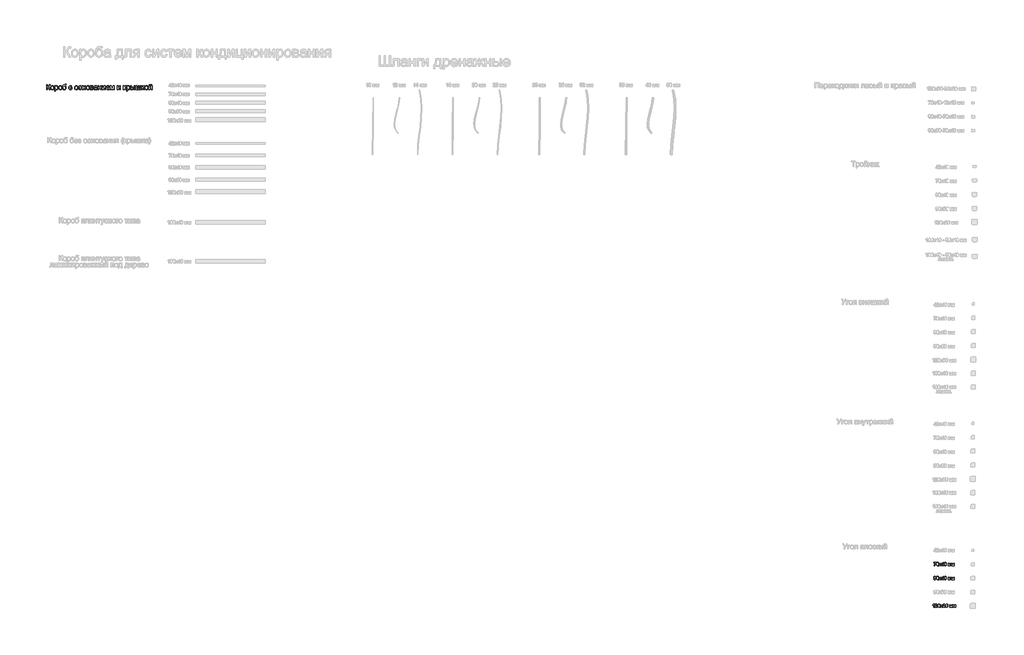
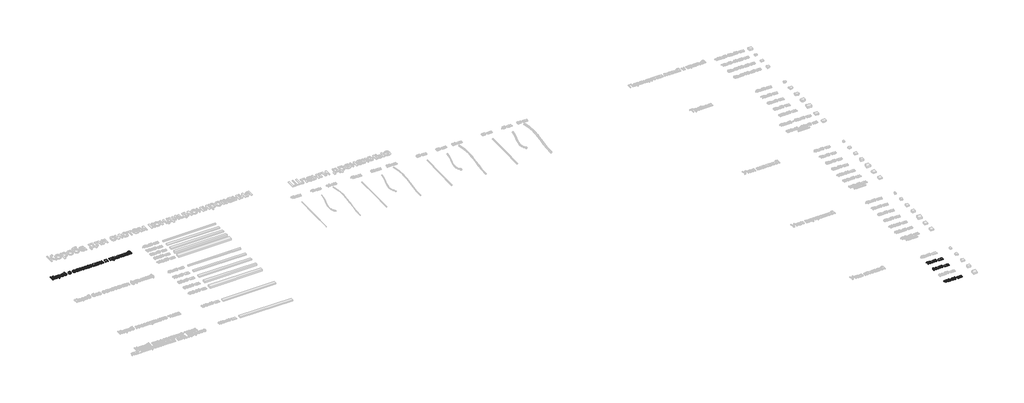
# One storey, part 6 of 21: 4 proxies.
"""IFC4 building model written with IfcOpenShell, lengths in millimetres."""

import ifcopenshell
import ifcopenshell.guid

model = None  # the IFC model being written
_history = None  # IfcOwnerHistory: only IFC2X3 demands one
_inside = {}  # id of a spatial element -> (the spatial element, [elements in it])
_under = {}  # id of a project, library or spatial element -> (it, [spatial elements below it])
_declared = {}  # id of a project -> (the project, [libraries it declares])
_typed = {}  # id of a type object -> (the type object, [elements of that type])
_made_of = {}  # id of a material, layer set ... -> (it, [elements and type objects made of it])


def new_model(schema):
    """Start an empty IFC model of exactly this schema.

    Asked for "IFC4X3", IfcOpenShell would pick the latest addendum, in which some entities
    have other attributes; the version numbers below select the first issue.
    IFC2X3 requires an IfcOwnerHistory on every rooted entity: one is made here for all.
    """
    global model, _history
    if schema == "IFC4X3":
        model = ifcopenshell.file(schema_version=(4, 3, 0, 0))
    else:
        model = ifcopenshell.file(schema=schema)
    _inside.clear()
    _under.clear()
    _declared.clear()
    _typed.clear()
    _made_of.clear()
    _history = None
    if model.schema == "IFC2X3":
        org = make("IfcOrganization", Name="unknown")
        user = make(
            "IfcPersonAndOrganization",
            ThePerson=make("IfcPerson", FamilyName="unknown"),
            TheOrganization=org,
        )
        app = make(
            "IfcApplication",
            ApplicationDeveloper=org,
            Version="unknown",
            ApplicationFullName="unknown",
            ApplicationIdentifier="unknown",
        )
        _history = make(
            "IfcOwnerHistory",
            OwningUser=user,
            OwningApplication=app,
            ChangeAction="ADDED",
            CreationDate=0,
        )
    return model


def make(cls, **values):
    """One entity of the class cls with the attributes given. An attribute that is None is left unset."""
    return model.create_entity(
        cls, **{name: value for name, value in values.items() if value is not None}
    )


def rooted(cls, **values):
    """An entity with a GlobalId (a new one), such as an element, a storey or a relation."""
    return make(cls, GlobalId=ifcopenshell.guid.new(), OwnerHistory=_history, **values)


def si_unit(unit_type, name, prefix=None):
    """IfcSIUnit, for example si_unit("LENGTHUNIT", "METRE", prefix="MILLI")."""
    return make("IfcSIUnit", UnitType=unit_type, Prefix=prefix, Name=name)


def assignment(units):
    """IfcUnitAssignment: the units of a project."""
    return None if units is None else make("IfcUnitAssignment", Units=units)


def point(xyz):
    """IfcCartesianPoint."""
    return None if xyz is None else make("IfcCartesianPoint", Coordinates=xyz)


def direction(xyz):
    """IfcDirection."""
    return None if xyz is None else make("IfcDirection", DirectionRatios=xyz)


def frame(location, z_axis=None, x_axis=None):
    """IfcAxis2Placement3D, a coordinate frame: its origin and axes. An axis left out is left unset."""
    return make(
        "IfcAxis2Placement3D",
        Location=point(location),
        Axis=direction(z_axis),
        RefDirection=direction(x_axis),
    )


def origin():
    """The frame at (0, 0, 0) with its axes left unset."""
    return frame((0.0, 0.0, 0.0))


def origin_with_axes():
    """The frame at (0, 0, 0) with the z axis (0, 0, 1) and the x axis (1, 0, 0) written out."""
    return frame((0.0, 0.0, 0.0), z_axis=(0.0, 0.0, 1.0), x_axis=(1.0, 0.0, 0.0))


def place(relative_to, where):
    """IfcLocalPlacement: puts the frame where relative to a parent placement (None: the world)."""
    return make(
        "IfcLocalPlacement", PlacementRelTo=relative_to, RelativePlacement=where
    )


def context(
    kind, dimensions, precision=None, world=None, true_north=None, identifier=None
):
    """IfcGeometricRepresentationContext, for example the 3D "Model" context."""
    return make(
        "IfcGeometricRepresentationContext",
        ContextIdentifier=identifier,
        ContextType=kind,
        CoordinateSpaceDimension=dimensions,
        Precision=precision,
        WorldCoordinateSystem=world,
        TrueNorth=true_north,
    )


def project(units=None, contexts=None):
    """IfcProject with its units and contexts."""
    return rooted(
        "IfcProject",
        Name="project",
        RepresentationContexts=contexts,
        UnitsInContext=assignment(units),
    )


def spatial(cls, under=None, at=None, **own):
    """A site, building, storey or space (cls), placed at a placement, below another one or the project."""
    s = rooted(cls, ObjectPlacement=at, **own)
    if under is not None:
        _under.setdefault(under.id(), (under, []))[1].append(s)
    return s


def polyline(points):
    """IfcPolyline through the points."""
    return make("IfcPolyline", Points=[point(p) for p in points])


def outline(outer, holes=None, kind="AREA"):
    """IfcArbitraryClosedProfileDef: a profile drawn as a closed curve; with holes, ...WithVoids."""
    if holes is None:
        return make("IfcArbitraryClosedProfileDef", ProfileType=kind, OuterCurve=outer)
    return make(
        "IfcArbitraryProfileDefWithVoids",
        ProfileType=kind,
        OuterCurve=outer,
        InnerCurves=holes,
    )


def extrude(swept, where, along, depth):
    """IfcExtrudedAreaSolid: the profile swept, set in the frame where, extruded along a direction by depth."""
    return make(
        "IfcExtrudedAreaSolid",
        SweptArea=swept,
        Position=where,
        ExtrudedDirection=direction(along),
        Depth=depth,
    )


def shape(context_of_items, identifier, shape_type, items):
    """IfcShapeRepresentation: the items that make up one representation, for example the "Body"."""
    return make(
        "IfcShapeRepresentation",
        ContextOfItems=context_of_items,
        RepresentationIdentifier=identifier,
        RepresentationType=shape_type,
        Items=items,
    )


def made_of(thing, what):
    """Note that an element or type object is made of a material, layer set ...; save() writes the relation."""
    if what is not None:
        _made_of.setdefault(what.id(), (what, []))[1].append(thing)
    return thing


def element(
    cls,
    number,
    at=None,
    inside=None,
    cuts=None,
    type_object=None,
    material=None,
    context=None,
    identifier="Body",
    shape_type=None,
    held_by="IfcProductDefinitionShape",
    body=None,
    shapes=None,
    **own,
):
    """One element of the class cls, such as IfcWall. Its Tag is "e" and its number.

    at: its placement. inside: the storey or other place that contains it. cuts: it is an
    opening in that element (IfcRelVoidsElement). A single representation is given by context,
    identifier, shape_type and body (its items); several are given by shapes. held_by: the class
    of the entity that holds the representations. save() writes the other relations.
    """
    e = rooted(cls, Tag="e%d" % number, ObjectPlacement=at, **own)
    if body is not None:
        shapes = [shape(context, identifier, shape_type, body)]
    if shapes is not None:
        e.Representation = make(held_by, Representations=shapes)
    if inside is not None:
        _inside.setdefault(inside.id(), (inside, []))[1].append(e)
    if cuts is not None:
        rooted(
            "IfcRelVoidsElement", RelatingBuildingElement=cuts, RelatedOpeningElement=e
        )
    if type_object is not None:
        _typed.setdefault(type_object.id(), (type_object, []))[1].append(e)
    return made_of(e, material)


def aggregate(whole, parts):
    """IfcRelAggregates: a whole, such as a stair, and the parts it consists of."""
    return rooted("IfcRelAggregates", RelatingObject=whole, RelatedObjects=parts)


def save(model, path):
    """Write the relations noted so far, then the file.

    IfcRelAggregates (storeys below a building ...), IfcRelContainedInSpatialStructure (elements
    in a storey), IfcRelDefinesByType, IfcRelAssociatesMaterial and IfcRelDeclares: one each for
    every whole, place, type object, material and project.
    """
    for whole, parts in _under.values():
        aggregate(whole, parts)
    for where, things in _inside.values():
        rooted(
            "IfcRelContainedInSpatialStructure",
            RelatedElements=things,
            RelatingStructure=where,
        )
    for kind, things in _typed.values():
        rooted("IfcRelDefinesByType", RelatedObjects=things, RelatingType=kind)
    for what, things in _made_of.values():
        rooted("IfcRelAssociatesMaterial", RelatedObjects=things, RelatingMaterial=what)
    for by, libraries in _declared.values():
        rooted("IfcRelDeclares", RelatingContext=by, RelatedDefinitions=libraries)
    model.write(path)


model = new_model("IFC4")

# Units and contexts
model_context = context("Model", 3, world=origin())
ifc_project = project(units=[si_unit("LENGTHUNIT", "METRE", prefix="MILLI")], contexts=[model_context])

# Site, building, storey
site = spatial("IfcSite", under=ifc_project)
building = spatial("IfcBuilding", under=site)
storey = spatial("IfcBuildingStorey", under=building, Name="Этаж 01", Elevation=0.0)

# Proxies
placement = place(None, origin())
element("IfcBuildingElementProxy", 1, Name="150 мм Arial", ObjectType="150 мм Arial", at=placement, inside=storey, context=model_context, shape_type="SweptSolid", body=[
    extrude(outline(polyline([(-2799.1885147, -2364.9797366), (-2780.3529565, -2364.9797366), (-2780.3529565, -2430.9041902), (-2767.6012469, -2429.6579899), (-2759.2917123, -2425.9193891), (-2744.5948266, -2400.7010784), (-2734.2021602, -2379.6398341), (-2722.4299364, -2369.2103796), (-2705.5993351, -2364.9797366), (-2693.2385001, -2365.2004658), (-2693.2385001, -2384.036024), (-2697.3955666, -2383.9256594), (-2701.5526332, -2383.8152948), (-2716.267913, -2388.3402433), (-2727.4515256, -2407.7276245), (-2740.7872479, -2431.3456485), (-2753.7918765, -2439.1447468), (-2739.2513406, -2447.661215), (-2724.9131398, -2465.4115213), (-2693.2385001, -2515.6642018), (-2715.0906906, -2515.6642018), (-2741.8724998, -2473.2106196), (-2760.7264521, -2451.0457294), (-2769.4314598, -2446.5345764), (-2780.3529565, -2445.0308588), (-2780.3529565, -2515.6642018), (-2799.1885147, -2515.6642018), (-2799.1885147, -2364.9797366)])), origin_with_axes(), (0.0, 0.0, 1.0), 20.0),
    extrude(outline(polyline([(-2683.820721, -2460.3347498), (-2679.7464279, -2433.6541081), (-2667.5235486, -2414.9013234), (-2652.4219927, -2405.7134705), (-2634.3405926, -2402.6508529), (-2614.5531398, -2406.3802567), (-2598.7480096, -2417.5684678), (-2588.3875329, -2435.3325697), (-2584.9340407, -2458.7896454), (-2586.460751, -2477.8183416), (-2591.0408818, -2492.3036951), (-2598.541076, -2503.1516155), (-2608.8279763, -2511.268012), (-2621.046257, -2516.330988), (-2634.3405926, -2518.0186466), (-2654.3671687, -2514.3030385), (-2670.1539049, -2503.156214), (-2680.404017, -2485.0196316), (-2683.820721, -2460.3347498)]), holes=[polyline([(-2664.9851628, -2460.2979616), (-2662.805462, -2477.3446935), (-2656.2663595, -2489.4893979), (-2646.4255162, -2496.7596658), (-2634.3405926, -2499.1830885), (-2622.3108514, -2496.7458702), (-2612.4884021, -2489.4342156), (-2605.9492997, -2477.1285628), (-2603.7695988, -2459.7093504), (-2605.9630952, -2443.1592591), (-2612.5435844, -2431.1801017), (-2622.3798293, -2423.9098337), (-2634.3405926, -2421.4864111), (-2646.4255162, -2423.9006367), (-2656.2663595, -2431.1433135), (-2662.805462, -2443.2604267), (-2664.9851628, -2460.2979616)])]), origin_with_axes(), (0.0, 0.0, 1.0), 20.0),
    extrude(outline(polyline([(-2563.7440378, -2558.0442077), (-2563.7440378, -2405.0052977), (-2544.9084796, -2405.0052977), (-2544.9084796, -2423.4729739), (-2531.885457, -2407.8563832), (-2514.3006976, -2402.6508529), (-2501.5627835, -2404.4718688), (-2490.4251561, -2409.9349164), (-2481.3568649, -2418.708902), (-2474.8269595, -2430.4627318), (-2469.566247, -2459.4886212), (-2471.0515706, -2475.597254), (-2475.5075412, -2490.0044327), (-2482.7916047, -2501.9789916), (-2492.7612068, -2510.7897654), (-2504.3724823, -2516.2114263), (-2516.581566, -2518.0186466), (-2532.9707089, -2513.1809984), (-2544.9084796, -2500.948922), (-2544.9084796, -2558.0442077), (-2563.7440378, -2558.0442077)]), holes=[polyline([(-2544.9084796, -2461.2176666), (-2542.8713331, -2478.1034501), (-2536.7598934, -2489.9124622), (-2527.742186, -2496.8654319), (-2516.9862362, -2499.1830885), (-2506.0555424, -2496.7826584), (-2496.8079087, -2489.5813684), (-2490.503331, -2477.340095), (-2488.4018051, -2459.819715), (-2490.4527473, -2443.0259019), (-2496.6055736, -2431.051343), (-2505.6094855, -2423.877644), (-2516.213684, -2421.4864111), (-2526.8592692, -2424.0293954), (-2536.2080704, -2431.6583482), (-2542.7333773, -2444.1341464), (-2544.9084796, -2461.2176666)])]), origin_with_axes(), (0.0, 0.0, 1.0), 20.0),
    extrude(outline(polyline([(-2453.0851336, -2460.3347498), (-2449.0108405, -2433.6541081), (-2436.7879612, -2414.9013234), (-2421.6864053, -2405.7134705), (-2403.6050053, -2402.6508529), (-2383.8175524, -2406.3802567), (-2368.0124222, -2417.5684678), (-2357.6519455, -2435.3325697), (-2354.1984533, -2458.7896454), (-2355.7251636, -2477.8183416), (-2360.3052944, -2492.3036951), (-2367.8054886, -2503.1516155), (-2378.0923889, -2511.268012), (-2390.3106697, -2516.330988), (-2403.6050053, -2518.0186466), (-2423.6315814, -2514.3030385), (-2439.4183175, -2503.156214), (-2449.6684296, -2485.0196316), (-2453.0851336, -2460.3347498)]), holes=[polyline([(-2434.2495755, -2460.2979616), (-2432.0698746, -2477.3446935), (-2425.5307722, -2489.4893979), (-2415.6899288, -2496.7596658), (-2403.6050053, -2499.1830885), (-2391.575264, -2496.7458702), (-2381.7528147, -2489.4342156), (-2375.2137123, -2477.1285628), (-2373.0340115, -2459.7093504), (-2375.2275079, -2443.1592591), (-2381.807997, -2431.1801017), (-2391.6442419, -2423.9098337), (-2403.6050053, -2421.4864111), (-2415.6899288, -2423.9006367), (-2425.5307722, -2431.1433135), (-2432.0698746, -2443.2604267), (-2434.2495755, -2460.2979616)])]), origin_with_axes(), (0.0, 0.0, 1.0), 20.0),
    extrude(outline(polyline([(-2255.311773, -2362.6252918), (-2238.8306596, -2362.6252918), (-2243.686702, -2377.3221776), (-2253.288422, -2382.6380724), (-2276.3546231, -2383.8152948), (-2307.4222576, -2388.1563023), (-2314.5499713, -2393.8032909), (-2319.3416343, -2402.0622417), (-2323.3699421, -2426.6735472), (-2307.0543756, -2408.6473294), (-2297.1353573, -2404.1499721), (-2286.0299196, -2402.6508529), (-2266.4310063, -2406.4630301), (-2250.5293071, -2417.8995616), (-2239.9894879, -2435.8384074), (-2236.4762149, -2459.1575274), (-2238.2190558, -2477.1377599), (-2243.4475787, -2491.5679312), (-2259.9838743, -2511.1208592), (-2271.2778516, -2516.2941998), (-2286.0299196, -2518.0186466), (-2303.0306663, -2515.7975591), (-2315.7731789, -2509.1342964), (-2325.1495713, -2499.0083445), (-2332.0519572, -2486.3991891), (-2336.3009942, -2467.4118797), (-2337.7173399, -2438.1514655), (-2334.144286, -2402.011658), (-2323.4251244, -2379.9709279), (-2305.2931406, -2368.7275344), (-2279.4816201, -2364.9797366), (-2258.5123464, -2364.5566723), (-2255.311773, -2362.6252918)]), holes=[polyline([(-2255.311773, -2458.5689162), (-2257.3535181, -2443.7478703), (-2263.4787533, -2431.8790774), (-2273.3195967, -2424.0845777), (-2286.5081662, -2421.4864111), (-2300.2577558, -2424.2317305), (-2310.4572841, -2432.4676886), (-2316.7756573, -2445.2929747), (-2318.8817818, -2461.8062777), (-2316.5549282, -2477.8137431), (-2309.5743673, -2489.5629743), (-2299.1817009, -2496.7780599), (-2286.6185308, -2499.1830885), (-2273.9909813, -2496.4009809), (-2263.9937881, -2488.0546581), (-2257.4822768, -2475.1190074), (-2255.311773, -2458.5689162)])]), origin_with_axes(), (0.0, 0.0, 1.0), 20.0),
    extrude(outline(polyline([(-2083.4373049, -2475.6386408), (-2064.6017467, -2477.9930855), (-2069.8532622, -2494.7455119), (-2079.7216967, -2507.4052511), (-2093.2781482, -2515.3652977), (-2109.5937147, -2518.0186466), (-2129.6294879, -2514.316834), (-2145.2966623, -2503.2113963), (-2155.4088187, -2485.1897771), (-2158.7795375, -2460.73942), (-2157.3401992, -2443.9777966), (-2153.0221842, -2429.4510563), (-2145.7565148, -2417.7202192), (-2135.4742131, -2409.3463052), (-2123.1731589, -2404.324716), (-2109.8512321, -2402.6508529), (-2093.9357373, -2404.9501154), (-2081.2116188, -2411.8479028), (-2072.0835468, -2422.9763332), (-2066.9561915, -2437.9675245), (-2085.7917496, -2440.3219692), (-2094.528947, -2426.2136947), (-2109.7040793, -2421.4864111), (-2121.8763748, -2423.8132647), (-2131.5378757, -2430.7938256), (-2137.8424534, -2442.8051727), (-2139.9439793, -2460.2243852), (-2137.8884387, -2477.8781224), (-2131.7218167, -2489.9308563), (-2122.2350598, -2496.8700304), (-2110.2191141, -2499.1830885), (-2100.4656427, -2497.7391516), (-2092.4688078, -2493.4073411), (-2086.6516738, -2486.0772924), (-2083.4373049, -2475.6386408)])), origin_with_axes(), (0.0, 0.0, 1.0), 20.0),
    extrude(outline(polyline([(-1993.9684036, -2460.3347498), (-1989.8941105, -2433.6541081), (-1977.6712312, -2414.9013234), (-1962.5696753, -2405.7134705), (-1944.4882753, -2402.6508529), (-1924.7008225, -2406.3802567), (-1908.8956922, -2417.5684678), (-1898.5352156, -2435.3325697), (-1895.0817233, -2458.7896454), (-1896.6084336, -2477.8183416), (-1901.1885644, -2492.3036951), (-1908.6887586, -2503.1516155), (-1918.9756589, -2511.268012), (-1931.1939397, -2516.330988), (-1944.4882753, -2518.0186466), (-1964.5148514, -2514.3030385), (-1980.3015875, -2503.156214), (-1990.5516996, -2485.0196316), (-1993.9684036, -2460.3347498)]), holes=[polyline([(-1975.1328455, -2460.2979616), (-1972.9531447, -2477.3446935), (-1966.4140422, -2489.4893979), (-1956.5731988, -2496.7596658), (-1944.4882753, -2499.1830885), (-1932.458534, -2496.7458702), (-1922.6360848, -2489.4342156), (-1916.0969823, -2477.1285628), (-1913.9172815, -2459.7093504), (-1916.1107779, -2443.1592591), (-1922.6912671, -2431.1801017), (-1932.5275119, -2423.9098337), (-1944.4882753, -2421.4864111), (-1956.5731988, -2423.9006367), (-1966.4140422, -2431.1433135), (-1972.9531447, -2443.2604267), (-1975.1328455, -2460.2979616)])]), origin_with_axes(), (0.0, 0.0, 1.0), 20.0),
    extrude(outline(polyline([(-1803.2583773, -2475.6386408), (-1784.4228192, -2477.9930855), (-1789.6743347, -2494.7455119), (-1799.5427692, -2507.4052511), (-1813.0992207, -2515.3652977), (-1829.4147872, -2518.0186466), (-1849.4505604, -2514.316834), (-1865.1177348, -2503.2113963), (-1875.2298912, -2485.1897771), (-1878.6006099, -2460.73942), (-1877.1612716, -2443.9777966), (-1872.8432567, -2429.4510563), (-1865.5775873, -2417.7202192), (-1855.2952856, -2409.3463052), (-1842.9942313, -2404.324716), (-1829.6723046, -2402.6508529), (-1813.7568098, -2404.9501154), (-1801.0326913, -2411.8479028), (-1791.9046193, -2422.9763332), (-1786.7772639, -2437.9675245), (-1805.6128221, -2440.3219692), (-1814.3500195, -2426.2136947), (-1829.5251518, -2421.4864111), (-1841.6974473, -2423.8132647), (-1851.3589482, -2430.7938256), (-1857.6635259, -2442.8051727), (-1859.7650518, -2460.2243852), (-1857.7095111, -2477.8781224), (-1851.5428892, -2489.9308563), (-1842.0561322, -2496.8700304), (-1830.0401866, -2499.1830885), (-1820.2867152, -2497.7391516), (-1812.2898803, -2493.4073411), (-1806.4727463, -2486.0772924), (-1803.2583773, -2475.6386408)])), origin_with_axes(), (0.0, 0.0, 1.0), 20.0),
    extrude(outline(polyline([(-1767.9417058, -2405.0052977), (-1749.1061476, -2405.0052977), (-1749.1061476, -2447.3853035), (-1699.6628075, -2447.3853035), (-1699.6628075, -2405.0052977), (-1680.8272493, -2405.0052977), (-1680.8272493, -2515.6642018), (-1699.6628075, -2515.6642018), (-1699.6628075, -2466.2208617), (-1749.1061476, -2466.2208617), (-1749.1061476, -2515.6642018), (-1767.9417058, -2515.6642018), (-1767.9417058, -2405.0052977)])), origin_with_axes(), (0.0, 0.0, 1.0), 20.0),
    extrude(outline(polyline([(-1657.2828016, -2460.3347498), (-1653.2085085, -2433.6541081), (-1640.9856293, -2414.9013234), (-1625.8840734, -2405.7134705), (-1607.8026733, -2402.6508529), (-1588.0152205, -2406.3802567), (-1572.2100903, -2417.5684678), (-1561.8496136, -2435.3325697), (-1558.3961213, -2458.7896454), (-1559.9228316, -2477.8183416), (-1564.5029625, -2492.3036951), (-1572.0031566, -2503.1516155), (-1582.2900569, -2511.268012), (-1594.5083377, -2516.330988), (-1607.8026733, -2518.0186466), (-1627.8292494, -2514.3030385), (-1643.6159855, -2503.156214), (-1653.8660976, -2485.0196316), (-1657.2828016, -2460.3347498)]), holes=[polyline([(-1638.4472435, -2460.2979616), (-1636.2675427, -2477.3446935), (-1629.7284402, -2489.4893979), (-1619.8875968, -2496.7596658), (-1607.8026733, -2499.1830885), (-1595.7729321, -2496.7458702), (-1585.9504828, -2489.4342156), (-1579.4113803, -2477.1285628), (-1577.2316795, -2459.7093504), (-1579.4251759, -2443.1592591), (-1586.0056651, -2431.1801017), (-1595.8419099, -2423.9098337), (-1607.8026733, -2421.4864111), (-1619.8875968, -2423.9006367), (-1629.7284402, -2431.1433135), (-1636.2675427, -2443.2604267), (-1638.4472435, -2460.2979616)])]), origin_with_axes(), (0.0, 0.0, 1.0), 20.0),
    extrude(outline(polyline([(-1537.2061184, -2405.0052977), (-1495.7090294, -2405.0052977), (-1472.955528, -2407.5252894), (-1460.1532345, -2416.7591274), (-1454.8005515, -2432.8539647), (-1458.0379131, -2445.9321697), (-1467.7867859, -2455.2579782), (-1455.1316453, -2465.4667036), (-1450.091662, -2483.2170099), (-1453.2830383, -2497.5736047), (-1460.8706044, -2507.6811625), (-1472.8819516, -2513.668442), (-1489.3446708, -2515.6642018), (-1537.2061184, -2515.6642018), (-1537.2061184, -2405.0052977)]), holes=[polyline([(-1518.3705603, -2496.8286437), (-1495.267571, -2496.8286437), (-1474.7765438, -2493.4257352), (-1470.5367038, -2488.7858236), (-1468.9272201, -2481.6719055), (-1472.1461876, -2472.6036143), (-1480.5338971, -2467.3245077), (-1497.1069809, -2466.2208617), (-1518.3705603, -2466.2208617), (-1518.3705603, -2496.8286437)]), polyline([(-1518.3705603, -2447.3853035), (-1499.7557313, -2447.3853035), (-1484.396658, -2446.4288104), (-1476.9286535, -2442.6028376), (-1473.6361097, -2435.6866561), (-1475.0800465, -2430.0672586), (-1479.411857, -2426.452818), (-1499.1671201, -2423.8408558), (-1518.3705603, -2423.8408558), (-1518.3705603, -2447.3853035)])]), origin_with_axes(), (0.0, 0.0, 1.0), 20.0),
    extrude(outline(polyline([(-1355.9138712, -2501.5375332), (-1374.1792123, -2514.3030385), (-1394.3575397, -2518.0186466), (-1410.0982906, -2515.7837635), (-1421.709566, -2509.0791141), (-1428.8694694, -2498.8979799), (-1431.2561038, -2486.2336422), (-1427.6508603, -2471.3344214), (-1418.1778989, -2460.5186908), (-1404.9893294, -2454.3382732), (-1388.692157, -2451.5055819), (-1356.0242358, -2445.0308588), (-1355.9138712, -2440.837004), (-1357.2106552, -2432.4309004), (-1361.1010073, -2426.9310646), (-1369.8014165, -2422.8475745), (-1381.9231283, -2421.4864111), (-1400.9794156, -2425.1100487), (-1410.0661009, -2437.9675245), (-1428.901659, -2435.6130797), (-1420.7530728, -2417.2189799), (-1404.3455359, -2406.4400375), (-1379.4951071, -2402.6508529), (-1356.6680293, -2405.9985791), (-1343.7737654, -2414.4046827), (-1337.998018, -2427.188582), (-1337.078313, -2443.6696954), (-1337.078313, -2467.1037785), (-1336.1218199, -2499.826882), (-1332.3694235, -2515.6642018), (-1351.2049817, -2515.6642018), (-1355.9138712, -2501.5375332)]), holes=[polyline([(-1355.9138712, -2463.8664169), (-1386.300924, -2469.6421642), (-1402.5061259, -2472.6955848), (-1409.8453717, -2477.6619917), (-1412.4205457, -2484.909267), (-1406.8103452, -2495.0995983), (-1390.3476259, -2499.1830885), (-1371.2913386, -2494.676534), (-1359.00408, -2483.7688329), (-1356.0242358, -2469.2007059), (-1355.9138712, -2463.8664169)])]), origin_with_axes(), (0.0, 0.0, 1.0), 20.0),
    extrude(outline(polyline([(-1311.1794206, -2405.0052977), (-1292.3438624, -2405.0052977), (-1292.3438624, -2447.3853035), (-1242.9005223, -2447.3853035), (-1242.9005223, -2405.0052977), (-1224.0649641, -2405.0052977), (-1224.0649641, -2515.6642018), (-1242.9005223, -2515.6642018), (-1242.9005223, -2466.2208617), (-1292.3438624, -2466.2208617), (-1292.3438624, -2515.6642018), (-1311.1794206, -2515.6642018), (-1311.1794206, -2405.0052977)])), origin_with_axes(), (0.0, 0.0, 1.0), 20.0),
    extrude(outline(polyline([(-1195.8116269, -2405.0052977), (-1176.9760687, -2405.0052977), (-1176.9760687, -2489.3974274), (-1130.6965138, -2405.0052977), (-1106.3427257, -2405.0052977), (-1106.3427257, -2515.6642018), (-1125.1782838, -2515.6642018), (-1125.1782838, -2431.7871069), (-1171.1635332, -2515.6642018), (-1195.8116269, -2515.6642018), (-1195.8116269, -2405.0052977)])), origin_with_axes(), (0.0, 0.0, 1.0), 20.0),
    extrude(outline(polyline([(-1000.6134403, -2482.7019751), (-982.1457641, -2485.0564198), (-988.7998297, -2498.9715563), (-999.4178238, -2509.3734197), (-1013.7606231, -2515.8573399), (-1031.5891042, -2518.0186466), (-1053.6896151, -2514.2892429), (-1070.6949603, -2503.1010317), (-1081.5382821, -2485.18058), (-1085.1527227, -2461.2544548), (-1081.5014939, -2436.5235876), (-1070.5478075, -2418.0283203), (-1053.7723886, -2406.4952198), (-1032.655962, -2402.6508529), (-1012.1971246, -2406.4860227), (-995.8493684, -2417.9915321), (-985.1302068, -2436.4500112), (-981.5571529, -2461.1440902), (-981.6675175, -2466.2208617), (-1066.3171646, -2466.2208617), (-1063.0568104, -2480.3199392), (-1055.4830398, -2490.6850144), (-1044.5523461, -2497.0585699), (-1031.2212223, -2499.1830885), (-1012.7535461, -2495.2467511), (-1000.6134403, -2482.7019751)]), holes=[polyline([(-1066.3171646, -2447.3853035), (-1000.3927111, -2447.3853035), (-1002.9402939, -2437.4340956), (-1007.934292, -2430.315579), (-1018.9155695, -2423.693703), (-1032.7295384, -2421.4864111), (-1045.4260658, -2423.2476461), (-1055.9244982, -2428.5313513), (-1063.2223573, -2436.7673095), (-1066.3171646, -2447.3853035)])]), origin_with_axes(), (0.0, 0.0, 1.0), 20.0),
    extrude(outline(polyline([(-962.7215948, -2405.0052977), (-930.311191, -2405.0052977), (-905.3320035, -2493.5912821), (-878.4030415, -2405.0052977), (-847.3538011, -2405.0052977), (-847.3538011, -2515.6642018), (-866.1893592, -2515.6642018), (-866.1893592, -2426.5631826), (-893.2654741, -2515.6642018), (-917.9871441, -2515.6642018), (-943.8860366, -2422.2957515), (-943.8860366, -2515.6642018), (-962.7215948, -2515.6642018), (-962.7215948, -2405.0052977)])), origin_with_axes(), (0.0, 0.0, 1.0), 20.0),
    extrude(outline(polyline([(-760.2393446, -2405.0052977), (-741.4037865, -2405.0052977), (-741.4037865, -2489.3974274), (-695.1242315, -2405.0052977), (-670.7704434, -2405.0052977), (-670.7704434, -2515.6642018), (-689.6060015, -2515.6642018), (-689.6060015, -2431.7871069), (-735.5912509, -2515.6642018), (-760.2393446, -2515.6642018), (-760.2393446, -2405.0052977)])), origin_with_axes(), (0.0, 0.0, 1.0), 20.0),
    extrude(outline(polyline([(-583.6559869, -2405.0052977), (-564.8204288, -2405.0052977), (-564.8204288, -2452.0941931), (-552.2020763, -2448.7096787), (-541.8645923, -2428.9912038), (-533.2745477, -2411.9766615), (-525.6961786, -2406.4400375), (-511.9189979, -2405.0052977), (-508.3137543, -2405.0052977), (-508.3137543, -2423.9512204), (-513.3905258, -2423.8408558), (-522.5875757, -2425.8274186), (-529.0622988, -2438.2250419), (-536.659062, -2451.6343406), (-547.3092458, -2458.2010342), (-535.4266574, -2465.531083), (-523.7647981, -2480.9729297), (-503.6048648, -2515.6642018), (-525.0155969, -2515.6642018), (-544.77086, -2481.7086937), (-554.7036739, -2467.3429018), (-564.8204288, -2463.8664169), (-564.8204288, -2515.6642018), (-583.6559869, -2515.6642018), (-583.6559869, -2405.0052977)])), origin_with_axes(), (0.0, 0.0, 1.0), 20.0),
    extrude(outline(polyline([(-491.8326409, -2558.0442077), (-491.8326409, -2405.0052977), (-472.9970828, -2405.0052977), (-472.9970828, -2423.4729739), (-459.9740601, -2407.8563832), (-442.3893008, -2402.6508529), (-429.6513867, -2404.4718688), (-418.5137593, -2409.9349164), (-409.4454681, -2418.708902), (-402.9155627, -2430.4627318), (-397.6548502, -2459.4886212), (-399.1401737, -2475.597254), (-403.5961444, -2490.0044327), (-410.8802079, -2501.9789916), (-420.84981, -2510.7897654), (-432.4610854, -2516.2114263), (-444.6701691, -2518.0186466), (-461.059312, -2513.1809984), (-472.9970828, -2500.948922), (-472.9970828, -2558.0442077), (-491.8326409, -2558.0442077)]), holes=[polyline([(-472.9970828, -2461.2176666), (-470.9599362, -2478.1034501), (-464.8484966, -2489.9124622), (-455.8307892, -2496.8654319), (-445.0748393, -2499.1830885), (-434.1441456, -2496.7826584), (-424.8965119, -2489.5813684), (-418.5919342, -2477.340095), (-416.4904083, -2459.819715), (-418.5413504, -2443.0259019), (-424.6941768, -2431.051343), (-433.6980886, -2423.877644), (-444.3022871, -2421.4864111), (-454.9478724, -2424.0293954), (-464.2966736, -2431.6583482), (-470.8219805, -2444.1341464), (-472.9970828, -2461.2176666)])]), origin_with_axes(), (0.0, 0.0, 1.0), 20.0),
    extrude(outline(polyline([(-272.8692774, -2405.0052977), (-254.0337192, -2405.0052977), (-254.0337192, -2515.6642018), (-272.8692774, -2515.6642018), (-272.8692774, -2405.0052977)])), origin_with_axes(), (0.0, 0.0, 1.0), 20.0),
    extrude(outline(polyline([(-376.4648472, -2405.0052977), (-357.6292891, -2405.0052977), (-357.6292891, -2445.0308588), (-334.3423588, -2445.0308588), (-314.2146151, -2447.3899021), (-299.3015988, -2454.4670319), (-290.0723592, -2465.6920313), (-286.995946, -2480.4946831), (-289.5757185, -2493.9729597), (-297.315036, -2505.3451119), (-310.7197362, -2513.0844294), (-330.2956568, -2515.6642018), (-376.4648472, -2515.6642018), (-376.4648472, -2405.0052977)]), holes=[polyline([(-357.6292891, -2496.8286437), (-338.2786961, -2496.8286437), (-313.2995087, -2492.8739122), (-307.6985053, -2487.8109363), (-305.8315042, -2480.5314713), (-311.3681282, -2468.9431885), (-320.2478799, -2465.1356098), (-335.8138868, -2463.8664169), (-357.6292891, -2463.8664169), (-357.6292891, -2496.8286437)])]), origin_with_axes(), (0.0, 0.0, 1.0), 20.0),
    extrude(outline(polyline([(-225.780382, -2405.0052977), (-206.9448239, -2405.0052977), (-206.9448239, -2496.8286437), (-164.564818, -2496.8286437), (-164.564818, -2405.0052977), (-145.7292599, -2405.0052977), (-145.7292599, -2496.8286437), (-103.349254, -2496.8286437), (-103.349254, -2405.0052977), (-84.5136959, -2405.0052977), (-84.5136959, -2515.6642018), (-225.780382, -2515.6642018), (-225.780382, -2405.0052977)])), origin_with_axes(), (0.0, 0.0, 1.0), 20.0),
    extrude(outline(polyline([(-58.6148034, -2405.0052977), (-39.7792453, -2405.0052977), (-39.7792453, -2452.0941931), (-27.1608928, -2448.7096787), (-16.8234088, -2428.9912038), (-8.2333642, -2411.9766615), (-0.6549951, -2406.4400375), (13.1221857, -2405.0052977), (16.7274292, -2405.0052977), (16.7274292, -2423.9512204), (11.6506577, -2423.8408558), (2.4536078, -2425.8274186), (-4.0211153, -2438.2250419), (-11.6178785, -2451.6343406), (-22.2680623, -2458.2010342), (-10.3854738, -2465.531083), (1.2763854, -2480.9729297), (21.4363187, -2515.6642018), (0.0255866, -2515.6642018), (-19.7296765, -2481.7086937), (-29.6624904, -2467.3429018), (-39.7792453, -2463.8664169), (-39.7792453, -2515.6642018), (-58.6148034, -2515.6642018), (-58.6148034, -2405.0052977)])), origin_with_axes(), (0.0, 0.0, 1.0), 20.0),
    extrude(outline(polyline([(28.4996531, -2460.3347498), (32.5739461, -2433.6541081), (44.7968254, -2414.9013234), (59.8983813, -2405.7134705), (77.9797814, -2402.6508529), (97.7672342, -2406.3802567), (113.5723644, -2417.5684678), (123.9328411, -2435.3325697), (127.3863334, -2458.7896454), (125.8596231, -2477.8183416), (121.2794922, -2492.3036951), (113.7792981, -2503.1516155), (103.4923978, -2511.268012), (91.274117, -2516.330988), (77.9797814, -2518.0186466), (57.9532053, -2514.3030385), (42.1664692, -2503.156214), (31.9163571, -2485.0196316), (28.4996531, -2460.3347498)]), holes=[polyline([(47.3352112, -2460.2979616), (49.514912, -2477.3446935), (56.0540145, -2489.4893979), (65.8948579, -2496.7596658), (77.9797814, -2499.1830885), (90.0095226, -2496.7458702), (99.8319719, -2489.4342156), (106.3710744, -2477.1285628), (108.5507752, -2459.7093504), (106.3572788, -2443.1592591), (99.7767896, -2431.1801017), (89.9405448, -2423.9098337), (77.9797814, -2421.4864111), (65.8948579, -2423.9006367), (56.0540145, -2431.1433135), (49.514912, -2443.2604267), (47.3352112, -2460.2979616)])]), origin_with_axes(), (0.0, 0.0, 1.0), 20.0),
    extrude(outline(polyline([(148.5763363, -2405.0052977), (167.4118944, -2405.0052977), (167.4118944, -2489.3974274), (213.6914494, -2405.0052977), (238.0452375, -2405.0052977), (238.0452375, -2515.6642018), (219.2096794, -2515.6642018), (219.2096794, -2431.7871069), (173.22443, -2515.6642018), (148.5763363, -2515.6642018), (148.5763363, -2405.0052977)])), origin_with_axes(), (0.0, 0.0, 1.0), 20.0),
    extrude(outline(polyline([(209.7919003, -2364.9797366), (223.9185689, -2364.9797366), (220.8789439, -2377.0416675), (214.7767013, -2385.9306162), (205.8877526, -2391.4074594), (194.4880093, -2393.2330738), (182.1179772, -2391.421255), (172.5254542, -2385.9857985), (165.9679576, -2377.1106454), (162.7030049, -2364.9797366), (176.8296735, -2364.9797366), (182.1271742, -2375.5931322), (192.7957521, -2379.1064052), (204.4943995, -2375.7034968), (209.7919003, -2364.9797366)])), origin_with_axes(), (0.0, 0.0, 1.0), 20.0),
])
element("IfcBuildingElementProxy", 2, Name="100 мм Arial", ObjectType="100 мм Arial", at=placement, inside=storey, context=model_context, shape_type="SweptSolid", body=[
    extrude(outline(polyline([(22749.8598158, -16152.1324753), (22749.8598158, -16139.5754366), (22815.7842693, -16139.5754366), (22815.7842693, -16149.7289796), (22797.0836012, -16176.7437808), (22782.7729916, -16211.1652728), (22778.113153, -16238.4621169), (22765.5561142, -16238.4621169), (22770.5470466, -16210.1352032), (22784.2445196, -16178.1172069), (22803.2272305, -16152.1324753), (22749.8598158, -16152.1324753)])), origin_with_axes(), (0.0, 0.0, 1.0), 20.0),
    extrude(outline(polyline([(22826.7716782, -16189.0433022), (22830.4627609, -16160.1400401), (22841.4256444, -16143.4749857), (22859.733905, -16138.0058067), (22874.4001339, -16141.2431683), (22884.5291515, -16150.5751082), (22890.4152634, -16165.4375408), (22892.6961318, -16189.0433022), (22889.0418373, -16217.8239369), (22878.115742, -16234.5257795), (22869.8843824, -16238.6552549), (22859.733905, -16240.0317467), (22846.6863569, -16237.6405137), (22836.7780685, -16230.4668148), (22829.2732758, -16213.476798), (22826.7716782, -16189.0433022)]), holes=[polyline([(22839.328717, -16189.0187767), (22840.800245, -16208.7709742), (22845.2148289, -16220.2029072), (22851.7876539, -16225.6567578), (22859.733905, -16227.4747079), (22867.6801561, -16225.6506264), (22874.2529811, -16220.1783817), (22878.667565, -16208.7403173), (22880.139093, -16189.0187767), (22878.7166159, -16169.7111033), (22874.4491848, -16158.1902655), (22867.8886226, -16152.4697005), (22859.5867522, -16150.5628455), (22851.7263402, -16152.2428399), (22845.4110326, -16157.2828233), (22840.8492959, -16169.521031), (22839.328717, -16189.0187767)])]), origin_with_axes(), (0.0, 0.0, 1.0), 20.0),
    extrude(outline(polyline([(22898.9746511, -16238.4621169), (22925.8055113, -16201.3796118), (22900.544281, -16164.6895141), (22915.6519683, -16164.6895141), (22927.841125, -16182.3478499), (22933.5310332, -16190.6865084), (22938.460652, -16183.8684288), (22952.3420659, -16164.6895141), (22967.4497532, -16164.6895141), (22940.9131986, -16201.3796118), (22966.4687345, -16238.4621169), (22951.3610473, -16238.4621169), (22935.9835799, -16216.168468), (22933.1631512, -16212.0972405), (22914.0823384, -16238.4621169), (22898.9746511, -16238.4621169)])), origin_with_axes(), (0.0, 0.0, 1.0), 20.0),
    extrude(outline(polyline([(23015.1272598, -16238.4621169), (23015.1272598, -16214.9176692), (22969.6079942, -16214.9176692), (22969.6079942, -16202.3606304), (23018.2665194, -16139.5754366), (23027.6842985, -16139.5754366), (23027.6842985, -16202.3606304), (23040.2413373, -16202.3606304), (23040.2413373, -16214.9176692), (23027.6842985, -16214.9176692), (23027.6842985, -16238.4621169), (23015.1272598, -16238.4621169)]), holes=[polyline([(23015.1272598, -16202.3606304), (23015.1272598, -16163.5613426), (22985.059038, -16202.3606304), (23015.1272598, -16202.3606304)])]), origin_with_axes(), (0.0, 0.0, 1.0), 20.0),
    extrude(outline(polyline([(23051.2287462, -16189.0433022), (23054.9198289, -16160.1400401), (23065.8827124, -16143.4749857), (23084.190973, -16138.0058067), (23098.8572019, -16141.2431683), (23108.9862195, -16150.5751082), (23114.8723314, -16165.4375408), (23117.1531998, -16189.0433022), (23113.4989053, -16217.8239369), (23102.57281, -16234.5257795), (23094.3414504, -16238.6552549), (23084.190973, -16240.0317467), (23071.1434249, -16237.6405137), (23061.2351365, -16230.4668148), (23053.7303438, -16213.476798), (23051.2287462, -16189.0433022)]), holes=[polyline([(23063.785785, -16189.0187767), (23065.257313, -16208.7709742), (23069.6718969, -16220.2029072), (23076.2447219, -16225.6567578), (23084.190973, -16227.4747079), (23092.1372241, -16225.6506264), (23098.7100491, -16220.1783817), (23103.124633, -16208.7403173), (23104.596161, -16189.0187767), (23103.1736839, -16169.7111033), (23098.9062528, -16158.1902655), (23092.3456905, -16152.4697005), (23084.0438202, -16150.5628455), (23076.1834082, -16152.2428399), (23069.8681006, -16157.2828233), (23065.3063639, -16169.521031), (23063.785785, -16189.0187767)])]), origin_with_axes(), (0.0, 0.0, 1.0), 20.0),
    extrude(outline(polyline([(23170.5206145, -16164.6895141), (23192.1275504, -16164.6895141), (23208.780342, -16223.7468371), (23226.7329834, -16164.6895141), (23247.432477, -16164.6895141), (23247.432477, -16238.4621169), (23234.8754382, -16238.4621169), (23234.8754382, -16179.0614374), (23216.824695, -16238.4621169), (23200.3435816, -16238.4621169), (23183.0776533, -16176.2164833), (23183.0776533, -16238.4621169), (23170.5206145, -16238.4621169), (23170.5206145, -16164.6895141)])), origin_with_axes(), (0.0, 0.0, 1.0), 20.0),
    extrude(outline(polyline([(23266.2680351, -16164.6895141), (23287.874971, -16164.6895141), (23304.5277626, -16223.7468371), (23322.480404, -16164.6895141), (23343.1798976, -16164.6895141), (23343.1798976, -16238.4621169), (23330.6228588, -16238.4621169), (23330.6228588, -16179.0614374), (23312.5721156, -16238.4621169), (23296.0910022, -16238.4621169), (23278.8250739, -16176.2164833), (23278.8250739, -16238.4621169), (23266.2680351, -16238.4621169), (23266.2680351, -16164.6895141)])), origin_with_axes(), (0.0, 0.0, 1.0), 20.0),
])
element("IfcBuildingElementProxy", 3, Name="100 мм Arial", ObjectType="100 мм Arial", at=placement, inside=storey, context=model_context, shape_type="SweptSolid", body=[
    extrude(outline(polyline([(22751.4294456, -16613.3480393), (22763.9864844, -16611.7784095), (22769.6273416, -16623.7590998), (22780.320445, -16627.4747079), (22790.4862508, -16625.083475), (22797.3779068, -16618.694591), (22801.4859224, -16607.7807585), (22803.3008069, -16593.2126315), (22803.2272305, -16590.7600848), (22793.1840521, -16600.2759658), (22779.4130027, -16603.9302603), (22767.9626756, -16601.6984428), (22758.4314663, -16595.0029905), (22752.0027284, -16584.6593751), (22749.8598158, -16571.4830683), (22752.1069616, -16557.8714345), (22758.8483992, -16547.2028566), (22768.9743511, -16540.3050692), (22781.37504, -16538.0058067), (22799.2663677, -16543.2542565), (22811.5781518, -16558.214791), (22815.7842693, -16586.3209754), (22811.5904146, -16616.8183928), (22806.3756873, -16626.8094547), (22799.1192149, -16634.0965839), (22790.1336972, -16638.547956), (22779.7318338, -16640.0317467), (22768.9958109, -16638.2812416), (22760.4302918, -16633.0297261), (22754.4399466, -16624.6082941), (22751.4294456, -16613.3480393)]), holes=[polyline([(22803.2272305, -16571.1887627), (22801.8721985, -16562.6784259), (22797.8071025, -16556.1301263), (22791.4979263, -16551.9546657), (22783.4106537, -16550.5628455), (22775.0229442, -16552.0619646), (22768.3029665, -16556.559322), (22763.8883825, -16563.441781), (22762.4168545, -16572.0962049), (22763.8086748, -16579.8554494), (22767.9841354, -16586.0144071), (22774.5385663, -16590.0335179), (22783.0672972, -16591.3732215), (22797.5495851, -16586.0144071), (22801.8078192, -16579.6285888), (22803.2272305, -16571.1887627)])]), origin_with_axes(), (0.0, 0.0, 1.0), 20.0),
    extrude(outline(polyline([(22826.7716782, -16589.0433022), (22830.4627609, -16560.1400401), (22841.4256444, -16543.4749857), (22859.733905, -16538.0058067), (22874.4001339, -16541.2431683), (22884.5291515, -16550.5751082), (22890.4152634, -16565.4375408), (22892.6961318, -16589.0433022), (22889.0418373, -16617.8239369), (22878.115742, -16634.5257795), (22869.8843824, -16638.6552549), (22859.733905, -16640.0317467), (22846.6863569, -16637.6405137), (22836.7780685, -16630.4668148), (22829.2732758, -16613.476798), (22826.7716782, -16589.0433022)]), holes=[polyline([(22839.328717, -16589.0187767), (22840.800245, -16608.7709742), (22845.2148289, -16620.2029072), (22851.7876539, -16625.6567578), (22859.733905, -16627.4747079), (22867.6801561, -16625.6506264), (22874.2529811, -16620.1783817), (22878.667565, -16608.7403173), (22880.139093, -16589.0187767), (22878.7166159, -16569.7111033), (22874.4491848, -16558.1902655), (22867.8886226, -16552.4697005), (22859.5867522, -16550.5628455), (22851.7263402, -16552.2428399), (22845.4110326, -16557.2828233), (22840.8492959, -16569.521031), (22839.328717, -16589.0187767)])]), origin_with_axes(), (0.0, 0.0, 1.0), 20.0),
    extrude(outline(polyline([(22898.9746511, -16638.4621169), (22925.8055113, -16601.3796118), (22900.544281, -16564.6895141), (22915.6519683, -16564.6895141), (22927.841125, -16582.3478499), (22933.5310332, -16590.6865084), (22938.460652, -16583.8684288), (22952.3420659, -16564.6895141), (22967.4497532, -16564.6895141), (22940.9131986, -16601.3796118), (22966.4687345, -16638.4621169), (22951.3610473, -16638.4621169), (22935.9835799, -16616.168468), (22933.1631512, -16612.0972405), (22914.0823384, -16638.4621169), (22898.9746511, -16638.4621169)])), origin_with_axes(), (0.0, 0.0, 1.0), 20.0),
    extrude(outline(polyline([(23015.1272598, -16638.4621169), (23015.1272598, -16614.9176692), (22969.6079942, -16614.9176692), (22969.6079942, -16602.3606304), (23018.2665194, -16539.5754366), (23027.6842985, -16539.5754366), (23027.6842985, -16602.3606304), (23040.2413373, -16602.3606304), (23040.2413373, -16614.9176692), (23027.6842985, -16614.9176692), (23027.6842985, -16638.4621169), (23015.1272598, -16638.4621169)]), holes=[polyline([(23015.1272598, -16602.3606304), (23015.1272598, -16563.5613426), (22985.059038, -16602.3606304), (23015.1272598, -16602.3606304)])]), origin_with_axes(), (0.0, 0.0, 1.0), 20.0),
    extrude(outline(polyline([(23051.2287462, -16589.0433022), (23054.9198289, -16560.1400401), (23065.8827124, -16543.4749857), (23084.190973, -16538.0058067), (23098.8572019, -16541.2431683), (23108.9862195, -16550.5751082), (23114.8723314, -16565.4375408), (23117.1531998, -16589.0433022), (23113.4989053, -16617.8239369), (23102.57281, -16634.5257795), (23094.3414504, -16638.6552549), (23084.190973, -16640.0317467), (23071.1434249, -16637.6405137), (23061.2351365, -16630.4668148), (23053.7303438, -16613.476798), (23051.2287462, -16589.0433022)]), holes=[polyline([(23063.785785, -16589.0187767), (23065.257313, -16608.7709742), (23069.6718969, -16620.2029072), (23076.2447219, -16625.6567578), (23084.190973, -16627.4747079), (23092.1372241, -16625.6506264), (23098.7100491, -16620.1783817), (23103.124633, -16608.7403173), (23104.596161, -16589.0187767), (23103.1736839, -16569.7111033), (23098.9062528, -16558.1902655), (23092.3456905, -16552.4697005), (23084.0438202, -16550.5628455), (23076.1834082, -16552.2428399), (23069.8681006, -16557.2828233), (23065.3063639, -16569.521031), (23063.785785, -16589.0187767)])]), origin_with_axes(), (0.0, 0.0, 1.0), 20.0),
    extrude(outline(polyline([(23170.5206145, -16564.6895141), (23192.1275504, -16564.6895141), (23208.780342, -16623.7468371), (23226.7329834, -16564.6895141), (23247.432477, -16564.6895141), (23247.432477, -16638.4621169), (23234.8754382, -16638.4621169), (23234.8754382, -16579.0614374), (23216.824695, -16638.4621169), (23200.3435816, -16638.4621169), (23183.0776533, -16576.2164833), (23183.0776533, -16638.4621169), (23170.5206145, -16638.4621169), (23170.5206145, -16564.6895141)])), origin_with_axes(), (0.0, 0.0, 1.0), 20.0),
    extrude(outline(polyline([(23266.2680351, -16564.6895141), (23287.874971, -16564.6895141), (23304.5277626, -16623.7468371), (23322.480404, -16564.6895141), (23343.1798976, -16564.6895141), (23343.1798976, -16638.4621169), (23330.6228588, -16638.4621169), (23330.6228588, -16579.0614374), (23312.5721156, -16638.4621169), (23296.0910022, -16638.4621169), (23278.8250739, -16576.2164833), (23278.8250739, -16638.4621169), (23266.2680351, -16638.4621169), (23266.2680351, -16564.6895141)])), origin_with_axes(), (0.0, 0.0, 1.0), 20.0),
])
element("IfcBuildingElementProxy", 4, Name="100 мм Arial", ObjectType="100 мм Arial", at=placement, inside=storey, context=model_context, shape_type="SweptSolid", body=[
    extrude(outline(polyline([(22758.4927799, -17438.4621169), (22745.9357412, -17438.4621169), (22745.9357412, -17360.1768283), (22734.04089, -17368.6503769), (22720.8216636, -17374.99021), (22720.8216636, -17363.1198843), (22739.2280261, -17351.3721859), (22750.399376, -17338.0058067), (22758.4927799, -17338.0058067), (22758.4927799, -17438.4621169)])), origin_with_axes(), (0.0, 0.0, 1.0), 20.0),
    extrude(outline(polyline([(22852.6705707, -17425.9050781), (22852.6705707, -17438.4621169), (22786.7461171, -17438.4621169), (22788.0950178, -17429.8046272), (22795.7224378, -17416.4750363), (22811.4432618, -17401.919172), (22833.123774, -17380.9989492), (22838.5439021, -17366.7741787), (22833.4303423, -17355.2594723), (22820.0762259, -17350.5628455), (22806.1580238, -17355.1491077), (22800.8727858, -17367.8287738), (22788.315747, -17366.2591439), (22791.3599705, -17354.1129067), (22797.9419925, -17345.2408193), (22807.7184566, -17339.8145599), (22820.346006, -17338.0058067), (22833.065526, -17340.016895), (22842.8235959, -17346.0501597), (22849.0316046, -17355.0632686), (22851.1009408, -17366.0138893), (22848.8691234, -17377.9210032), (22841.4501698, -17390.2327873), (22823.4607403, -17407.4374019), (22809.0152406, -17419.5161941), (22803.3498579, -17425.9050781), (22852.6705707, -17425.9050781)])), origin_with_axes(), (0.0, 0.0, 1.0), 20.0),
    extrude(outline(polyline([(22865.2276095, -17389.0433022), (22868.9186921, -17360.1400401), (22879.8815756, -17343.4749857), (22898.1898362, -17338.0058067), (22912.8560651, -17341.2431683), (22922.9850827, -17350.5751082), (22928.8711946, -17365.4375408), (22931.152063, -17389.0433022), (22927.4977685, -17417.8239369), (22916.5716732, -17434.5257795), (22908.3403136, -17438.6552549), (22898.1898362, -17440.0317467), (22885.1422881, -17437.6405137), (22875.2339997, -17430.4668148), (22867.729207, -17413.476798), (22865.2276095, -17389.0433022)]), holes=[polyline([(22877.7846482, -17389.0187767), (22879.2561762, -17408.7709742), (22883.6707601, -17420.2029072), (22890.2435851, -17425.6567578), (22898.1898362, -17427.4747079), (22906.1360873, -17425.6506264), (22912.7089123, -17420.1783817), (22917.1234962, -17408.7403173), (22918.5950242, -17389.0187767), (22917.1725472, -17369.7111033), (22912.905116, -17358.1902655), (22906.3445538, -17352.4697005), (22898.0426834, -17350.5628455), (22890.1822715, -17352.2428399), (22883.8669639, -17357.2828233), (22879.3052271, -17369.521031), (22877.7846482, -17389.0187767)])]), origin_with_axes(), (0.0, 0.0, 1.0), 20.0),
    extrude(outline(polyline([(22937.4305824, -17438.4621169), (22964.2614426, -17401.3796118), (22939.0002122, -17364.6895141), (22954.1078995, -17364.6895141), (22966.2970563, -17382.3478499), (22971.9869645, -17390.6865084), (22976.9165832, -17383.8684288), (22990.7979971, -17364.6895141), (23005.9056844, -17364.6895141), (22979.3691298, -17401.3796118), (23004.9246658, -17438.4621169), (22989.8169785, -17438.4621169), (22974.4395111, -17416.168468), (22971.6190825, -17412.0972405), (22952.5382696, -17438.4621169), (22937.4305824, -17438.4621169)])), origin_with_axes(), (0.0, 0.0, 1.0), 20.0),
    extrude(outline(polyline([(23077.1276387, -17364.6895141), (23064.5705999, -17366.2591439), (23059.8126594, -17355.7867698), (23047.2310952, -17350.5628455), (23035.9003297, -17353.6040033), (23027.3286793, -17365.0206079), (23023.7602239, -17387.4000959), (23034.833472, -17377.3814429), (23048.5554704, -17374.1072932), (23060.156016, -17376.345242), (23069.8926261, -17383.0590884), (23076.4961079, -17393.3168647), (23078.6972685, -17406.1866032), (23074.5524647, -17423.5138451), (23063.1481229, -17435.7765783), (23046.6915349, -17440.0317467), (23032.4453047, -17437.2113181), (23021.0992108, -17428.7500322), (23013.6771916, -17413.8140232), (23011.2031851, -17391.5694252), (23013.9500374, -17366.5595809), (23022.1905941, -17349.4591995), (23033.4416517, -17340.8691549), (23048.0159101, -17338.0058067), (23059.0339759, -17339.7777717), (23067.8570124, -17345.0936665), (23074.0374299, -17353.5365583), (23077.1276387, -17364.6895141)]), holes=[polyline([(23023.7602239, -17405.9903994), (23026.6664917, -17416.8674438), (23034.3920136, -17424.7646439), (23045.7105163, -17427.4747079), (23053.9970582, -17426.070625), (23060.5116352, -17421.8583762), (23064.7330811, -17415.2365002), (23066.1402298, -17406.6035361), (23064.7514752, -17398.3169941), (23060.5852116, -17391.9986209), (23053.96027, -17387.9979042), (23045.1954815, -17386.6643319), (23030.0019551, -17391.9986209), (23025.3206567, -17398.16371), (23023.7602239, -17405.9903994)])]), origin_with_axes(), (0.0, 0.0, 1.0), 20.0),
    extrude(outline(polyline([(23089.6846774, -17389.0433022), (23093.3757601, -17360.1400401), (23104.3386436, -17343.4749857), (23122.6469042, -17338.0058067), (23137.3131331, -17341.2431683), (23147.4421507, -17350.5751082), (23153.3282626, -17365.4375408), (23155.609131, -17389.0433022), (23151.9548365, -17417.8239369), (23141.0287412, -17434.5257795), (23132.7973816, -17438.6552549), (23122.6469042, -17440.0317467), (23109.5993561, -17437.6405137), (23099.6910677, -17430.4668148), (23092.186275, -17413.476798), (23089.6846774, -17389.0433022)]), holes=[polyline([(23102.2417162, -17389.0187767), (23103.7132442, -17408.7709742), (23108.1278281, -17420.2029072), (23114.7006531, -17425.6567578), (23122.6469042, -17427.4747079), (23130.5931553, -17425.6506264), (23137.1659803, -17420.1783817), (23141.5805642, -17408.7403173), (23143.0520922, -17389.0187767), (23141.6296152, -17369.7111033), (23137.362184, -17358.1902655), (23130.8016218, -17352.4697005), (23122.4997514, -17350.5628455), (23114.6393395, -17352.2428399), (23108.3240319, -17357.2828233), (23103.7622951, -17369.521031), (23102.2417162, -17389.0187767)])]), origin_with_axes(), (0.0, 0.0, 1.0), 20.0),
    extrude(outline(polyline([(23208.9765457, -17364.6895141), (23230.5834816, -17364.6895141), (23247.2362732, -17423.7468371), (23265.1889146, -17364.6895141), (23285.8884082, -17364.6895141), (23285.8884082, -17438.4621169), (23273.3313694, -17438.4621169), (23273.3313694, -17379.0614374), (23255.2806262, -17438.4621169), (23238.7995128, -17438.4621169), (23221.5335845, -17376.2164833), (23221.5335845, -17438.4621169), (23208.9765457, -17438.4621169), (23208.9765457, -17364.6895141)])), origin_with_axes(), (0.0, 0.0, 1.0), 20.0),
    extrude(outline(polyline([(23304.7239664, -17364.6895141), (23326.3309022, -17364.6895141), (23342.9836939, -17423.7468371), (23360.9363352, -17364.6895141), (23381.6358288, -17364.6895141), (23381.6358288, -17438.4621169), (23369.07879, -17438.4621169), (23369.07879, -17379.0614374), (23351.0280468, -17438.4621169), (23334.5469334, -17438.4621169), (23317.2810051, -17376.2164833), (23317.2810051, -17438.4621169), (23304.7239664, -17438.4621169), (23304.7239664, -17364.6895141)])), origin_with_axes(), (0.0, 0.0, 1.0), 20.0),
])

save(model, "model.ifc")
